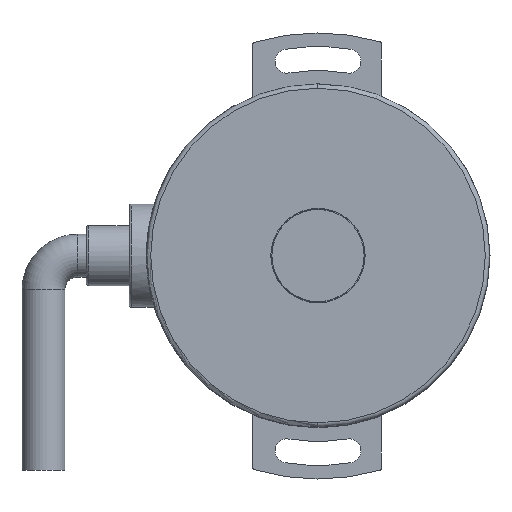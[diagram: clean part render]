
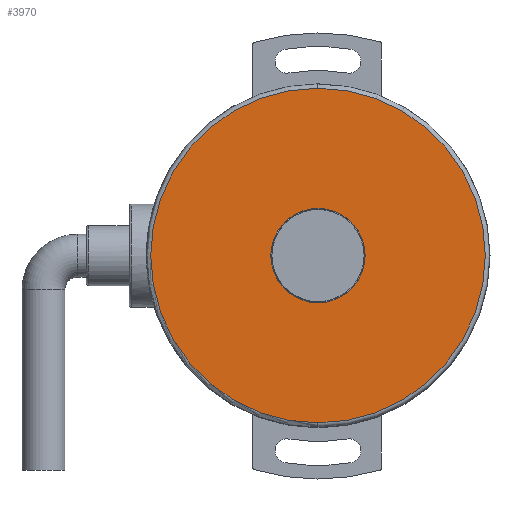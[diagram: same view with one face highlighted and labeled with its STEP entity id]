
A CAD part, top view. The second image highlights one B-rep face of the part: STEP entity #3970.
In plain terms, the highlighted planar face has unit normal (0, 0, 1).
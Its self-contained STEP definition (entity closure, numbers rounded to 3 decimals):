
#781=CARTESIAN_POINT('',(0.,0.,20.));
#782=DIRECTION('',(0.,0.,-1.));
#783=DIRECTION('',(0.,-1.,0.));
#784=AXIS2_PLACEMENT_3D('',#781,#782,#783);
#786=CARTESIAN_POINT('',(0.,0.,20.));
#787=DIRECTION('',(0.,0.,-1.));
#788=DIRECTION('',(0.,1.,0.));
#789=AXIS2_PLACEMENT_3D('',#786,#787,#788);
#791=CARTESIAN_POINT('',(0.,0.,20.));
#792=DIRECTION('',(0.,0.,1.));
#793=DIRECTION('',(1.,0.,0.));
#794=AXIS2_PLACEMENT_3D('',#791,#792,#793);
#796=CARTESIAN_POINT('',(0.,0.,20.));
#797=DIRECTION('',(0.,0.,1.));
#798=DIRECTION('',(-1.,0.,0.));
#799=AXIS2_PLACEMENT_3D('',#796,#797,#798);
#2901=CARTESIAN_POINT('',(0.,-19.5,20.));
#2902=CARTESIAN_POINT('',(0.,19.5,20.));
#2903=VERTEX_POINT('',#2901);
#2904=VERTEX_POINT('',#2902);
#2905=CARTESIAN_POINT('',(5.5,0.,20.));
#2906=CARTESIAN_POINT('',(-5.5,0.,20.));
#2907=VERTEX_POINT('',#2905);
#2908=VERTEX_POINT('',#2906);
#3954=CARTESIAN_POINT('',(0.,0.,20.));
#3955=DIRECTION('',(0.,0.,1.));
#3956=DIRECTION('',(0.,1.,0.));
#3957=AXIS2_PLACEMENT_3D('',#3954,#3955,#3956);
#3958=PLANE('',#3957);
#3959=ORIENTED_EDGE('',*,*,#3943,.T.);
#3961=ORIENTED_EDGE('',*,*,#3960,.T.);
#3962=EDGE_LOOP('',(#3959,#3961));
#3963=FACE_OUTER_BOUND('',#3962,.F.);
#3965=ORIENTED_EDGE('',*,*,#3964,.T.);
#3967=ORIENTED_EDGE('',*,*,#3966,.T.);
#3968=EDGE_LOOP('',(#3965,#3967));
#3969=FACE_BOUND('',#3968,.F.);
#3970=ADVANCED_FACE('',(#3963,#3969),#3958,.T.);
#785=CIRCLE('',#784,19.5);
#790=CIRCLE('',#789,19.5);
#795=CIRCLE('',#794,5.5);
#800=CIRCLE('',#799,5.5);
#3943=EDGE_CURVE('',#2903,#2904,#785,.T.);
#3960=EDGE_CURVE('',#2904,#2903,#790,.T.);
#3964=EDGE_CURVE('',#2907,#2908,#795,.T.);
#3966=EDGE_CURVE('',#2908,#2907,#800,.T.);
